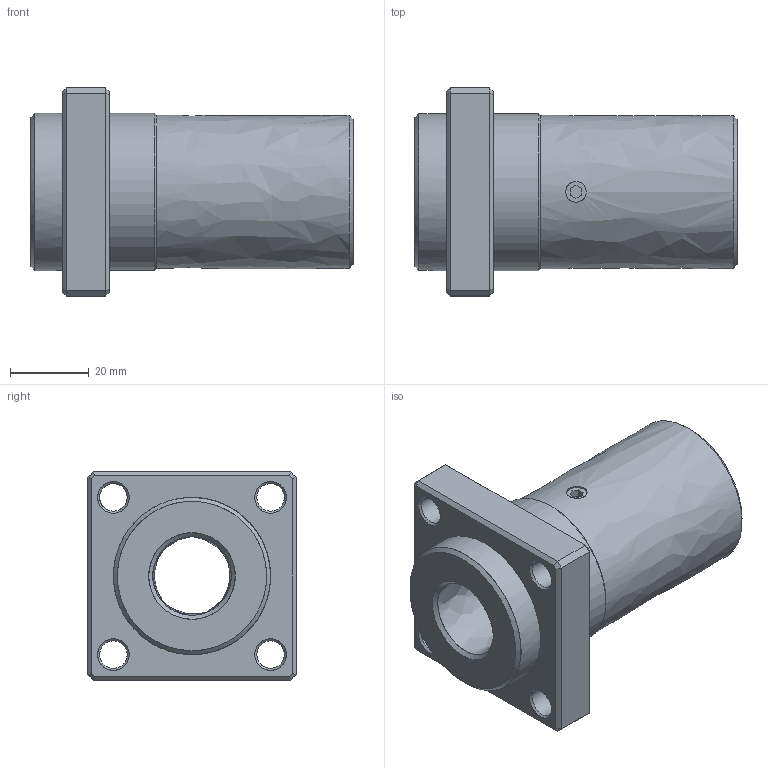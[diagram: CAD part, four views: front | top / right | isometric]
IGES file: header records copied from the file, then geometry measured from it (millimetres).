
Start section: Missler Software 3 rue Hermes, EUROPARC, 31520 Ramonville-Saint-Agne, France Tel   : +33 (0)5 61 00 03 00 Fax   : +33 (0)5 61 00 03 03 Email : sup.solid@topsolid.com
Global section: file name: \\192.168.1.1\share\s-4 技術開発\s-4-4_CAD\s-4-4-3_見直し済み\009 修正済み\LCF-B(済)\LCF-B_TOP\LCF-20BUU.igs; native system: TopSolid v611216 Missler Software; preprocessor: IGES preprocessor v100000; author: yu; organization: コダマコーポレーション株式会社, 10,7,13H22020; date: 220203.164904; units: millimetre
Bounding box: 82 x 53 x 53 mm (x, y, z)
Surface area: 21761.9 mm2 (no closed solid volume)
Topology: 0 solids, 0 shells, 62 faces, 693 edges, 682 vertices
Faces by surface type: bspline 62
